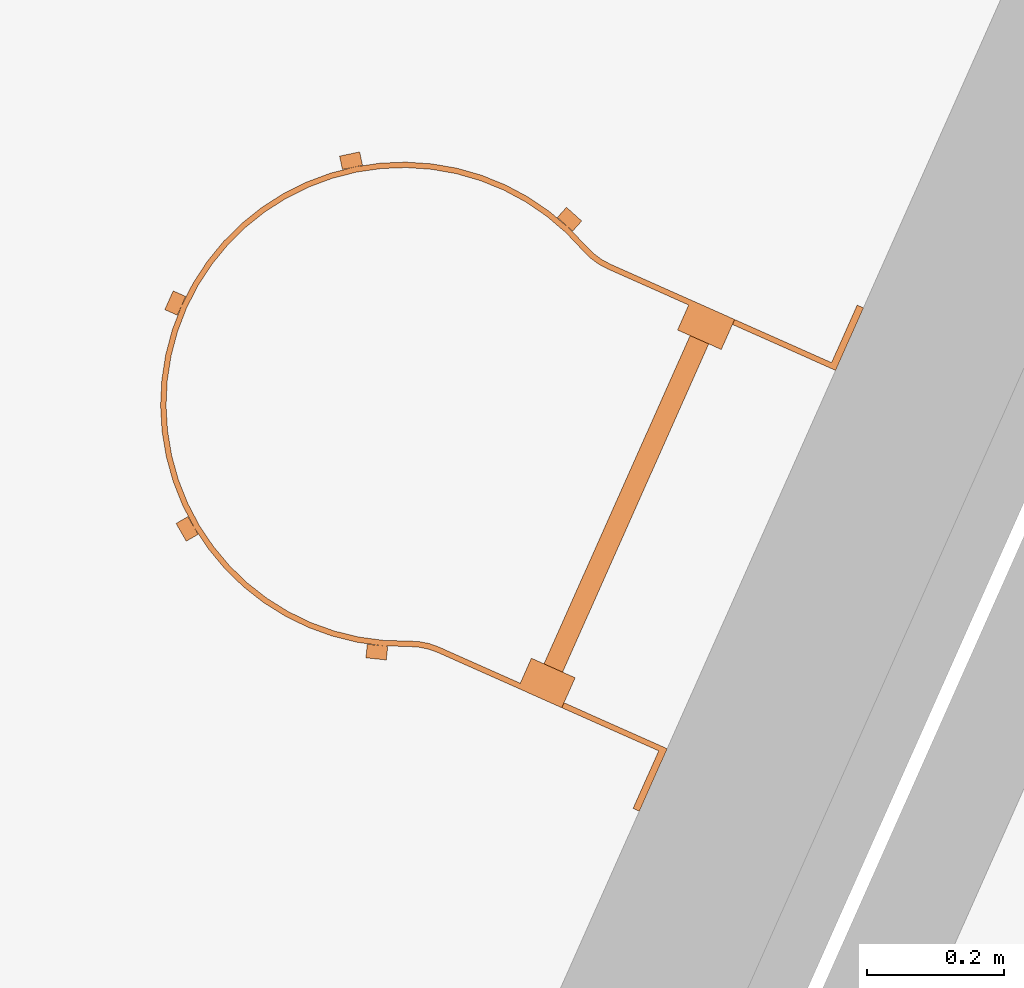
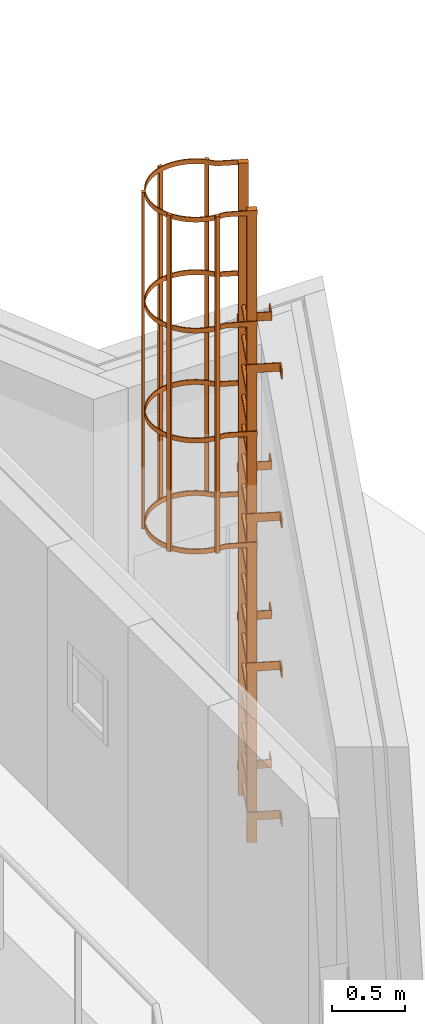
# One storey, part 15 of 16: 1 proxy.
"""IFC2X3 building model written with IfcOpenShell, lengths in millimetres."""

from ifc_helpers import new_model, entity, si_unit, converted_unit, derived_unit, direction, frame, frame_2d, origin, origin_2d_with_axis, place, context, subcontext, project, spatial, polyline, circle_curve, parameter, trimmed, segment, composite_curve, rectangle, circle, outline, extrude, source, transform, mapped, material, material_list, type_object, type_shapes, element, save


model = new_model("IFC2X3")

# Units and contexts
model_context = context("Model", 3, precision=0.01, world=origin(), true_north=direction((6.123031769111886e-17, 1.0)))
body_context = subcontext(model_context, "Body", "Model", "MODEL_VIEW")
ifc_project = project(units=[si_unit("LENGTHUNIT", "METRE", prefix="MILLI"), si_unit("AREAUNIT", "SQUARE_METRE"), si_unit("VOLUMEUNIT", "CUBIC_METRE"), converted_unit("PLANEANGLEUNIT", "DEGREE", entity("IfcRatioMeasure", 0.017453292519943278), si_unit("PLANEANGLEUNIT", "RADIAN"), dimensions=[0, 0, 0, 0, 0, 0, 0]), si_unit("MASSUNIT", "GRAM", prefix="KILO"), derived_unit("MASSDENSITYUNIT", [(si_unit("MASSUNIT", "GRAM", prefix="KILO"), 1), (si_unit("LENGTHUNIT", "METRE"), -3)]), derived_unit("MOMENTOFINERTIAUNIT", [(si_unit("LENGTHUNIT", "METRE"), 4)]), si_unit("TIMEUNIT", "SECOND"), si_unit("FREQUENCYUNIT", "HERTZ"), si_unit("THERMODYNAMICTEMPERATUREUNIT", "DEGREE_CELSIUS"), derived_unit("THERMALTRANSMITTANCEUNIT", [(si_unit("MASSUNIT", "GRAM", prefix="KILO"), 1), (si_unit("THERMODYNAMICTEMPERATUREUNIT", "KELVIN"), -1), (si_unit("TIMEUNIT", "SECOND"), -3)]), derived_unit("VOLUMETRICFLOWRATEUNIT", [(si_unit("LENGTHUNIT", "METRE"), 3), (si_unit("TIMEUNIT", "SECOND"), -1)]), derived_unit("MASSFLOWRATEUNIT", [(si_unit("MASSUNIT", "GRAM", prefix="KILO"), 1), (si_unit("TIMEUNIT", "SECOND"), -1)]), derived_unit("ROTATIONALFREQUENCYUNIT", [(si_unit("TIMEUNIT", "SECOND"), -1)]), si_unit("ELECTRICCURRENTUNIT", "AMPERE"), si_unit("ELECTRICVOLTAGEUNIT", "VOLT"), si_unit("POWERUNIT", "WATT"), si_unit("FORCEUNIT", "NEWTON", prefix="KILO"), si_unit("ILLUMINANCEUNIT", "LUX"), si_unit("LUMINOUSFLUXUNIT", "LUMEN"), si_unit("LUMINOUSINTENSITYUNIT", "CANDELA"), derived_unit("USERDEFINED", [(si_unit("MASSUNIT", "GRAM", prefix="KILO"), -1), (si_unit("LENGTHUNIT", "METRE"), -2), (si_unit("TIMEUNIT", "SECOND"), 3), (si_unit("LUMINOUSFLUXUNIT", "LUMEN"), 1)]), derived_unit("SOUNDPOWERUNIT", [(si_unit("MASSUNIT", "GRAM", prefix="KILO"), 1), (si_unit("LENGTHUNIT", "METRE"), 2), (si_unit("TIMEUNIT", "SECOND"), -3)]), derived_unit("SOUNDPRESSUREUNIT", [(si_unit("MASSUNIT", "GRAM", prefix="KILO"), 1), (si_unit("LENGTHUNIT", "METRE"), -1), (si_unit("TIMEUNIT", "SECOND"), -2)]), derived_unit("LINEARVELOCITYUNIT", [(si_unit("LENGTHUNIT", "METRE"), 1), (si_unit("TIMEUNIT", "SECOND"), -1)]), si_unit("PRESSUREUNIT", "PASCAL"), derived_unit("USERDEFINED", [(si_unit("LENGTHUNIT", "METRE"), -2), (si_unit("MASSUNIT", "GRAM", prefix="KILO"), 1), (si_unit("TIMEUNIT", "SECOND"), -2)]), derived_unit("LINEARFORCEUNIT", [(si_unit("MASSUNIT", "GRAM", prefix="KILO"), 1), (si_unit("LENGTHUNIT", "METRE"), 1), (si_unit("TIMEUNIT", "SECOND"), -2), (si_unit("LENGTHUNIT", "METRE"), -1)]), derived_unit("PLANARFORCEUNIT", [(si_unit("MASSUNIT", "GRAM", prefix="KILO"), 1), (si_unit("LENGTHUNIT", "METRE"), 1), (si_unit("TIMEUNIT", "SECOND"), -2), (si_unit("LENGTHUNIT", "METRE"), -2)])], contexts=[model_context])

# Site, building, storey
site_placement = place(None, frame((-10000.0, -10000.0, 0.0)))
site = spatial("IfcSite", under=ifc_project, at=site_placement, Name="Default", CompositionType="ELEMENT")
building_placement = place(site_placement, origin())
building = spatial("IfcBuilding", under=site, at=building_placement, CompositionType="ELEMENT")
storey_placement = place(building_placement, frame((0.0, 0.0, 9000.0)))
storey = spatial("IfcBuildingStorey", under=building, at=storey_placement, Name="02 2e verdieping", CompositionType="ELEMENT", Elevation=9000.0)

# Proxy
ifc_material = material(Name="bcb_aluminium")
ifc_material_list_1 = material_list([ifc_material, ifc_material, ifc_material, ifc_material, ifc_material, ifc_material, ifc_material, ifc_material, ifc_material, ifc_material, ifc_material, ifc_material, ifc_material, ifc_material, ifc_material, ifc_material, ifc_material, ifc_material, ifc_material, ifc_material, ifc_material, ifc_material, ifc_material, ifc_material, ifc_material, ifc_material, ifc_material, ifc_material, ifc_material, ifc_material, ifc_material, ifc_material, ifc_material, ifc_material, ifc_material, ifc_material, ifc_material, ifc_material, ifc_material, ifc_material, ifc_material, ifc_material, ifc_material])
ifc_material_list_2 = material_list([ifc_material, ifc_material, ifc_material, ifc_material, ifc_material, ifc_material, ifc_material, ifc_material, ifc_material, ifc_material, ifc_material, ifc_material, ifc_material, ifc_material, ifc_material, ifc_material, ifc_material, ifc_material, ifc_material, ifc_material, ifc_material, ifc_material, ifc_material, ifc_material, ifc_material, ifc_material, ifc_material, ifc_material, ifc_material, ifc_material, ifc_material, ifc_material, ifc_material, ifc_material, ifc_material, ifc_material, ifc_material, ifc_material, ifc_material, ifc_material, ifc_material, ifc_material, ifc_material])
building_element_proxy_type = type_object("IfcBuildingElementProxyType", Name="Storax-kooiladder-DLL-VM-K:GL-VM-K", PredefinedType="NOTDEFINED", material=ifc_material_list_2)
shared_shape = source(origin(), body_context, "Body", "SweptSolid", [
    extrude(circle(Radius=15.000000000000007, at=frame_2d((1.0926188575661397e-28, -3.383959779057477e-14), x_axis=(1.0, 0.0))), frame((-277.4999999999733, 4120.000477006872, 200.0), z_axis=(1.0, 0.0, 0.0), x_axis=(0.0, 1.0, 0.0)), (0.0, 0.0, 1.0), 555.0000000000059),
    extrude(circle(Radius=15.000000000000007, at=frame_2d((1.0926188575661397e-28, -3.383959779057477e-14), x_axis=(1.0, 0.0))), frame((-277.4999999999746, 3870.0004770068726, 200.0), z_axis=(1.0, 0.0, 0.0), x_axis=(0.0, 1.0, 0.0)), (0.0, 0.0, 1.0), 555.0000000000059),
    extrude(circle(Radius=15.000000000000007, at=frame_2d((1.0926188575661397e-28, -3.383959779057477e-14), x_axis=(1.0, 0.0))), frame((-277.4999999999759, 3620.000477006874, 200.0), z_axis=(1.0, 0.0, 0.0), x_axis=(0.0, 1.0, 0.0)), (0.0, 0.0, 1.0), 555.0000000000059),
    extrude(circle(Radius=15.000000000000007, at=frame_2d((1.0926188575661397e-28, -3.383959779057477e-14), x_axis=(1.0, 0.0))), frame((-277.4999999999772, 3370.0004770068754, 200.0), z_axis=(1.0, 0.0, 0.0), x_axis=(0.0, 1.0, 0.0)), (0.0, 0.0, 1.0), 555.0000000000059),
    extrude(circle(Radius=15.000000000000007, at=frame_2d((1.0926188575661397e-28, -3.383959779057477e-14), x_axis=(1.0, 0.0))), frame((-277.4999999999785, 3120.0004770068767, 200.0), z_axis=(1.0, 0.0, 0.0), x_axis=(0.0, 1.0, 0.0)), (0.0, 0.0, 1.0), 555.0000000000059),
    extrude(circle(Radius=15.000000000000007, at=frame_2d((1.0926188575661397e-28, -3.383959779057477e-14), x_axis=(1.0, 0.0))), frame((-277.4999999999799, 2870.000477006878, 200.0), z_axis=(1.0, 0.0, 0.0), x_axis=(0.0, 1.0, 0.0)), (0.0, 0.0, 1.0), 555.0000000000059),
    extrude(circle(Radius=15.000000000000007, at=frame_2d((1.0926188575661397e-28, -3.383959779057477e-14), x_axis=(1.0, 0.0))), frame((-277.4999999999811, 2620.000477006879, 200.0), z_axis=(1.0, 0.0, 0.0), x_axis=(0.0, 1.0, 0.0)), (0.0, 0.0, 1.0), 555.0000000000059),
    extrude(circle(Radius=15.000000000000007, at=frame_2d((1.0926188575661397e-28, -3.383959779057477e-14), x_axis=(1.0, 0.0))), frame((-277.4999999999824, 2370.00047700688, 200.0), z_axis=(1.0, 0.0, 0.0), x_axis=(0.0, 1.0, 0.0)), (0.0, 0.0, 1.0), 555.0000000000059),
    extrude(circle(Radius=15.000000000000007, at=frame_2d((1.0926188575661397e-28, -3.383959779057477e-14), x_axis=(1.0, 0.0))), frame((-277.4999999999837, 2120.0004770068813, 200.0), z_axis=(1.0, 0.0, 0.0), x_axis=(0.0, 1.0, 0.0)), (0.0, 0.0, 1.0), 555.0000000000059),
    extrude(circle(Radius=15.000000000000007, at=frame_2d((1.0926188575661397e-28, -3.383959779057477e-14), x_axis=(1.0, 0.0))), frame((-277.499999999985, 1870.0004770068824, 200.0), z_axis=(1.0, 0.0, 0.0), x_axis=(0.0, 1.0, 0.0)), (0.0, 0.0, 1.0), 555.0000000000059),
    extrude(circle(Radius=15.000000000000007, at=frame_2d((1.0926188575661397e-28, -3.383959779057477e-14), x_axis=(1.0, 0.0))), frame((-277.4999999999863, 1620.0004770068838, 200.0), z_axis=(1.0, 0.0, 0.0), x_axis=(0.0, 1.0, 0.0)), (0.0, 0.0, 1.0), 555.0000000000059),
    extrude(circle(Radius=15.000000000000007, at=frame_2d((1.0926188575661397e-28, -3.383959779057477e-14), x_axis=(1.0, 0.0))), frame((-277.4999999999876, 1370.000477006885, 200.0), z_axis=(1.0, 0.0, 0.0), x_axis=(0.0, 1.0, 0.0)), (0.0, 0.0, 1.0), 555.0000000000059),
    extrude(circle(Radius=15.000000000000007, at=frame_2d((1.0926188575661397e-28, -3.383959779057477e-14), x_axis=(1.0, 0.0))), frame((-277.4999999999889, 1120.0004770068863, 200.0), z_axis=(1.0, 0.0, 0.0), x_axis=(0.0, 1.0, 0.0)), (0.0, 0.0, 1.0), 555.0000000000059),
    extrude(circle(Radius=15.000000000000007, at=frame_2d((1.0926188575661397e-28, -3.383959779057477e-14), x_axis=(1.0, 0.0))), frame((-277.4999999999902, 870.0004770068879, 200.0), z_axis=(1.0, 0.0, 0.0), x_axis=(0.0, 1.0, 0.0)), (0.0, 0.0, 1.0), 555.0000000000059),
    extrude(circle(Radius=15.000000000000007, at=frame_2d((1.0926188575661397e-28, -3.383959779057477e-14), x_axis=(1.0, 0.0))), frame((-277.4999999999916, 620.000477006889, 200.0), z_axis=(1.0, 0.0, 0.0), x_axis=(0.0, 1.0, 0.0)), (0.0, 0.0, 1.0), 555.0000000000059),
    extrude(circle(Radius=15.000000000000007, at=frame_2d((1.0926188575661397e-28, -3.383959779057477e-14), x_axis=(1.0, 0.0))), frame((-277.4999999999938, 370.0004770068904, 200.0), z_axis=(1.0, 0.0, 0.0), x_axis=(0.0, 1.0, 0.0)), (0.0, 0.0, 1.0), 555.0000000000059),
    extrude(circle(Radius=15.000000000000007, at=frame_2d((1.0926188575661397e-28, -3.383959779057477e-14), x_axis=(1.0, 0.0))), frame((-277.49999999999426, 120.00047700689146, 200.0), z_axis=(1.0, 0.0, 0.0), x_axis=(0.0, 1.0, 0.0)), (0.0, 0.0, 1.0), 555.0000000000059),
    extrude(rectangle(XDim=39.99999999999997, YDim=5299.999522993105, at=frame_2d((1.7763568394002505e-14, -6.821210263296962e-13), x_axis=(1.0, 0.0))), frame((-282.4999999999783, 2670.0002385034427, 165.0), z_axis=(0.0, 0.0, 1.0), x_axis=(-1.0, 0.0, 0.0)), (0.0, 0.0, 1.0), 70.00000000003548),
    extrude(rectangle(XDim=39.99999999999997, YDim=5299.99952299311, at=frame_2d((1.7763568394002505e-14, 4.547473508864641e-13), x_axis=(1.0, 0.0))), frame((282.5000000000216, 2670.0002385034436, 165.0), z_axis=(0.0, 0.0, 1.0), x_axis=(-1.0, 0.0, 0.0)), (0.0, 0.0, 1.0), 70.00000000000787),
    extrude(rectangle(XDim=29.999999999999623, YDim=20.000000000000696, at=frame_2d((1.509903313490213e-13, -1.900701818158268e-13), x_axis=(1.0, 0.0))), frame((346.18457193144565, 2500.0, 445.01781404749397), z_axis=(0.0, 1.0, 0.0), x_axis=(-0.30901699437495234, 0.0, -0.951056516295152)), (0.0, 0.0, 1.0), 2819.999999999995),
    extrude(rectangle(XDim=30.000000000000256, YDim=20.00000000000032, at=frame_2d((-3.108624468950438e-14, -1.8918200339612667e-13), x_axis=(1.0, 0.0))), frame((294.4821859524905, 2500.0, 771.4538318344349), z_axis=(0.0, 1.0, 0.0), x_axis=(0.5877852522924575, 0.0, -0.8090169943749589)), (0.0, 0.0, 1.0), 2820.0),
    extrude(rectangle(XDim=2820.0, YDim=29.999999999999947, at=origin_2d_with_axis()), frame((0.0, 3910.0, 911.4999999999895), z_axis=(0.0, 0.0, 1.0), x_axis=(0.0, 1.0, 0.0)), (0.0, 0.0, 1.0), 20.000000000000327),
    extrude(rectangle(XDim=30.00000000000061, YDim=20.000000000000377, at=frame_2d((-5.417888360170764e-14, -1.2878587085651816e-13), x_axis=(0.0, 1.0))), frame((-294.4821859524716, 2500.0, 771.4538318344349), z_axis=(0.0, 1.0, 0.0), x_axis=(0.8090169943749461, 0.0, -0.5877852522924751)), (0.0, 0.0, 1.0), 2819.999999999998),
    extrude(rectangle(XDim=29.999999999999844, YDim=20.000000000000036, at=frame_2d((-2.1316282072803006e-14, 6.394884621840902e-14), x_axis=(0.0, 1.0))), frame((-346.1845719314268, 2500.0, 445.01781404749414), z_axis=(0.0, 1.0, 0.0), x_axis=(0.951056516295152, 0.0, 0.30901699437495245)), (0.0, 0.0, 1.0), 2819.9999999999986),
    extrude(outline(composite_curve([segment(polyline([(-310.49999999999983, 51.29333201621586), (-310.49999999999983, -147.28464757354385)]), True, "CONTINUOUS"), segment(polyline([(-310.49999999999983, -147.28464757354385), (-302.4999999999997, -147.28464757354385)]), True, "CONTINUOUS"), segment(polyline([(-302.4999999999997, -147.28464757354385), (-302.4999999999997, 53.096248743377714)]), True, "CONTINUOUS"), segment(trimmed(circle_curve(frame_2d((-402.4999999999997, 53.09624874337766), x_axis=(1.0, 0.0)), 100.0), [parameter(359.9999999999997)], [parameter(25.51582177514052)], True, "PARAMETER"), True, "CONTINUOUS"), segment(trimmed(circle_curve(frame_2d((0.0, 245.21535242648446), x_axis=(1.0, 0.0)), 345.99999999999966), [parameter(334.4841782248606)], [parameter(205.5158217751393)], True, "PARAMETER"), False, "CONTINUOUS"), segment(trimmed(circle_curve(frame_2d((402.5000000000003, 53.09624874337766), x_axis=(1.0, 0.0)), 100.0), [parameter(154.48417822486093)], [parameter(180.0000000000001)], True, "PARAMETER"), True, "CONTINUOUS"), segment(polyline([(302.5000000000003, 53.09624874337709), (302.5000000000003, -147.28464757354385)]), True, "CONTINUOUS"), segment(polyline([(302.5000000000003, -147.28464757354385), (310.4999999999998, -147.28464757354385)]), True, "CONTINUOUS"), segment(polyline([(310.4999999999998, -147.28464757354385), (310.4999999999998, 51.29333201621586)]), True, "CONTINUOUS"), segment(trimmed(circle_curve(frame_2d((410.49999999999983, 51.293332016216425), x_axis=(1.0, 0.0)), 100.0), [parameter(154.7137419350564)], [parameter(180.00000000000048)], True, "PARAMETER"), False, "CONTINUOUS"), segment(trimmed(circle_curve(frame_2d((0.0, 245.21535242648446), x_axis=(1.0, 0.0)), 353.9999999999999), [parameter(334.7137419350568)], [parameter(205.28625806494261)], True, "PARAMETER"), True, "CONTINUOUS"), segment(trimmed(circle_curve(frame_2d((-410.49999999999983, 51.293332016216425), x_axis=(1.0, 0.0)), 100.0), [parameter(5.088887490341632e-14)], [parameter(25.286258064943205)], True, "PARAMETER"), False, "CONTINUOUS")], self_intersect=False)), frame((0.0, 4350.0, 312.2846475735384), z_axis=(0.0, -1.0, 0.0), x_axis=(1.0, 0.0, 0.0)), (0.0, 0.0, -1.0), 40.000000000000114),
    extrude(outline(composite_curve([segment(polyline([(-310.49999999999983, 51.29333201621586), (-310.49999999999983, -147.28464757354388)]), True, "CONTINUOUS"), segment(polyline([(-310.49999999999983, -147.28464757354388), (-302.4999999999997, -147.28464757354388)]), True, "CONTINUOUS"), segment(polyline([(-302.4999999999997, -147.28464757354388), (-302.4999999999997, 53.096248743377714)]), True, "CONTINUOUS"), segment(trimmed(circle_curve(frame_2d((-402.4999999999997, 53.0962487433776), x_axis=(1.0, 0.0)), 100.0), [parameter(359.9999999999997)], [parameter(25.51582177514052)], True, "PARAMETER"), True, "CONTINUOUS"), segment(trimmed(circle_curve(frame_2d((0.0, 245.21535242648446), x_axis=(1.0, 0.0)), 345.99999999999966), [parameter(334.4841782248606)], [parameter(205.5158217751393)], True, "PARAMETER"), False, "CONTINUOUS"), segment(trimmed(circle_curve(frame_2d((402.5000000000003, 53.0962487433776), x_axis=(1.0, 0.0)), 100.0), [parameter(154.48417822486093)], [parameter(180.0000000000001)], True, "PARAMETER"), True, "CONTINUOUS"), segment(polyline([(302.5000000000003, 53.09624874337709), (302.5000000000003, -147.28464757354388)]), True, "CONTINUOUS"), segment(polyline([(302.5000000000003, -147.28464757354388), (310.4999999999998, -147.28464757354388)]), True, "CONTINUOUS"), segment(polyline([(310.4999999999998, -147.28464757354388), (310.4999999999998, 51.29333201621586)]), True, "CONTINUOUS"), segment(trimmed(circle_curve(frame_2d((410.49999999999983, 51.29333201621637), x_axis=(1.0, 0.0)), 100.0), [parameter(154.7137419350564)], [parameter(180.00000000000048)], True, "PARAMETER"), False, "CONTINUOUS"), segment(trimmed(circle_curve(frame_2d((0.0, 245.21535242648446), x_axis=(1.0, 0.0)), 353.9999999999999), [parameter(334.7137419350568)], [parameter(205.28625806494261)], True, "PARAMETER"), True, "CONTINUOUS"), segment(trimmed(circle_curve(frame_2d((-410.49999999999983, 51.29333201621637), x_axis=(1.0, 0.0)), 100.0), [parameter(5.088887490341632e-14)], [parameter(25.286258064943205)], True, "PARAMETER"), False, "CONTINUOUS")], self_intersect=False)), frame((0.0, 5280.0, 312.2846475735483), z_axis=(0.0, -1.0, 0.0), x_axis=(1.0, 0.0, 0.0)), (0.0, 0.0, -1.0), 39.99999999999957),
    extrude(outline(composite_curve([segment(polyline([(-310.4999999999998, 51.29333201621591), (-310.4999999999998, -147.28464757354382)]), True, "CONTINUOUS"), segment(polyline([(-310.4999999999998, -147.28464757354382), (-302.4999999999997, -147.28464757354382)]), True, "CONTINUOUS"), segment(polyline([(-302.4999999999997, -147.28464757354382), (-302.4999999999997, 53.096248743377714)]), True, "CONTINUOUS"), segment(trimmed(circle_curve(frame_2d((-402.4999999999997, 53.09624874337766), x_axis=(1.0, 0.0)), 100.0), [parameter(359.9999999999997)], [parameter(25.51582177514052)], True, "PARAMETER"), True, "CONTINUOUS"), segment(trimmed(circle_curve(frame_2d((0.0, 245.21535242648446), x_axis=(1.0, 0.0)), 345.99999999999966), [parameter(334.4841782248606)], [parameter(205.5158217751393)], True, "PARAMETER"), False, "CONTINUOUS"), segment(trimmed(circle_curve(frame_2d((402.5000000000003, 53.09624874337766), x_axis=(1.0, 0.0)), 100.0), [parameter(154.48417822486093)], [parameter(180.0000000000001)], True, "PARAMETER"), True, "CONTINUOUS"), segment(polyline([(302.5000000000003, 53.096248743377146), (302.5000000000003, -147.28464757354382)]), True, "CONTINUOUS"), segment(polyline([(302.5000000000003, -147.28464757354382), (310.49999999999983, -147.28464757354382)]), True, "CONTINUOUS"), segment(polyline([(310.49999999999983, -147.28464757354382), (310.49999999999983, 51.29333201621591)]), True, "CONTINUOUS"), segment(trimmed(circle_curve(frame_2d((410.49999999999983, 51.293332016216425), x_axis=(1.0, 0.0)), 100.0), [parameter(154.7137419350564)], [parameter(180.00000000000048)], True, "PARAMETER"), False, "CONTINUOUS"), segment(trimmed(circle_curve(frame_2d((0.0, 245.21535242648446), x_axis=(1.0, 0.0)), 353.9999999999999), [parameter(334.7137419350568)], [parameter(205.28625806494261)], True, "PARAMETER"), True, "CONTINUOUS"), segment(trimmed(circle_curve(frame_2d((-410.4999999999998, 51.293332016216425), x_axis=(1.0, 0.0)), 100.0), [parameter(5.088887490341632e-14)], [parameter(25.286258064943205)], True, "PARAMETER"), False, "CONTINUOUS")], self_intersect=False)), frame((0.0, 3430.0, 312.2846475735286), z_axis=(0.0, -1.0, 0.0), x_axis=(1.0, 0.0, 0.0)), (0.0, 0.0, -1.0), 39.9999999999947),
    extrude(outline(composite_curve([segment(polyline([(-310.4999999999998, 51.29333201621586), (-310.4999999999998, -147.28464757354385)]), True, "CONTINUOUS"), segment(polyline([(-310.4999999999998, -147.28464757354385), (-302.4999999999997, -147.28464757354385)]), True, "CONTINUOUS"), segment(polyline([(-302.4999999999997, -147.28464757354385), (-302.4999999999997, 53.09624874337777)]), True, "CONTINUOUS"), segment(trimmed(circle_curve(frame_2d((-402.4999999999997, 53.0962487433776), x_axis=(1.0, 0.0)), 100.0), [parameter(359.9999999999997)], [parameter(25.515821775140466)], True, "PARAMETER"), True, "CONTINUOUS"), segment(trimmed(circle_curve(frame_2d((0.0, 245.2153524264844), x_axis=(1.0, 0.0)), 345.99999999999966), [parameter(334.4841782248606)], [parameter(205.5158217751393)], True, "PARAMETER"), False, "CONTINUOUS"), segment(trimmed(circle_curve(frame_2d((402.5000000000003, 53.0962487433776), x_axis=(1.0, 0.0)), 100.0), [parameter(154.48417822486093)], [parameter(180.0000000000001)], True, "PARAMETER"), True, "CONTINUOUS"), segment(polyline([(302.5000000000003, 53.09624874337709), (302.5000000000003, -147.28464757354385)]), True, "CONTINUOUS"), segment(polyline([(302.5000000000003, -147.28464757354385), (310.49999999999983, -147.28464757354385)]), True, "CONTINUOUS"), segment(polyline([(310.49999999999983, -147.28464757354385), (310.49999999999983, 51.29333201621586)]), True, "CONTINUOUS"), segment(trimmed(circle_curve(frame_2d((410.49999999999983, 51.29333201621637), x_axis=(1.0, 0.0)), 100.0), [parameter(154.7137419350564)], [parameter(180.00000000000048)], True, "PARAMETER"), False, "CONTINUOUS"), segment(trimmed(circle_curve(frame_2d((0.0, 245.2153524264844), x_axis=(1.0, 0.0)), 353.9999999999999), [parameter(334.7137419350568)], [parameter(205.28625806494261)], True, "PARAMETER"), True, "CONTINUOUS"), segment(trimmed(circle_curve(frame_2d((-410.4999999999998, 51.29333201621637), x_axis=(1.0, 0.0)), 100.0), [parameter(5.088887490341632e-14)], [parameter(25.286258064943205)], True, "PARAMETER"), False, "CONTINUOUS")], self_intersect=False)), frame((0.0, 2500.0, 312.2846475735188), z_axis=(0.0, -1.0, 0.0), x_axis=(1.0, 0.0, 0.0)), (0.0, 0.0, -1.0), 39.99999999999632),
    extrude(rectangle(XDim=99.9999999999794, YDim=70.00000000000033, at=frame_2d((-1.7763568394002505e-14, 0.0), x_axis=(1.0, 0.0))), frame((-352.5000000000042, 245.0, 0.0)), (0.0, 0.0, 1.0), 10.000000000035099),
    extrude(rectangle(XDim=7.999999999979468, YDim=70.00000000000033, at=frame_2d((-1.687538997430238e-14, 0.0), x_axis=(1.0, 0.0))), frame((-306.5000000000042, 245.0, 0.0)), (0.0, 0.0, 1.0), 240.00000000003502),
    extrude(rectangle(XDim=99.9999999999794, YDim=70.00000000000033, at=frame_2d((-1.7763568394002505e-14, 0.0), x_axis=(1.0, 0.0))), frame((352.5000000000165, 245.0, 0.0), z_axis=(0.0, 0.0, 1.0), x_axis=(-1.0, 0.0, 0.0)), (0.0, 0.0, 1.0), 10.000000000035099),
    extrude(rectangle(XDim=7.999999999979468, YDim=70.00000000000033, at=frame_2d((-1.687538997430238e-14, 0.0), x_axis=(1.0, 0.0))), frame((306.50000000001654, 245.0, 0.0), z_axis=(0.0, 0.0, 1.0), x_axis=(-1.0, 0.0, 0.0)), (0.0, 0.0, 1.0), 240.00000000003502),
    extrude(rectangle(XDim=99.9999999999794, YDim=70.00000000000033, at=frame_2d((-1.7763568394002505e-14, 0.0), x_axis=(1.0, 0.0))), frame((-352.5000000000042, 1495.0, 0.0)), (0.0, 0.0, 1.0), 10.000000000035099),
    extrude(rectangle(XDim=7.999999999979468, YDim=70.00000000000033, at=frame_2d((-1.687538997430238e-14, 0.0), x_axis=(1.0, 0.0))), frame((-306.5000000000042, 1495.0, 0.0)), (0.0, 0.0, 1.0), 240.00000000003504),
    extrude(rectangle(XDim=99.9999999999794, YDim=70.00000000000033, at=frame_2d((-1.7763568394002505e-14, 0.0), x_axis=(1.0, 0.0))), frame((352.5000000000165, 1495.0, 0.0), z_axis=(0.0, 0.0, 1.0), x_axis=(-1.0, 0.0, 0.0)), (0.0, 0.0, 1.0), 10.000000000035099),
    extrude(rectangle(XDim=7.999999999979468, YDim=70.00000000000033, at=frame_2d((-1.687538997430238e-14, 0.0), x_axis=(1.0, 0.0))), frame((306.50000000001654, 1495.0, 0.0), z_axis=(0.0, 0.0, 1.0), x_axis=(-1.0, 0.0, 0.0)), (0.0, 0.0, 1.0), 240.00000000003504),
    extrude(rectangle(XDim=99.9999999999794, YDim=70.00000000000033, at=frame_2d((-1.7763568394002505e-14, 0.0), x_axis=(1.0, 0.0))), frame((-352.5000000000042, 2745.0, 0.0)), (0.0, 0.0, 1.0), 10.000000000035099),
    extrude(rectangle(XDim=7.999999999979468, YDim=70.00000000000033, at=frame_2d((-1.687538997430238e-14, 0.0), x_axis=(1.0, 0.0))), frame((-306.5000000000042, 2745.0, 0.0)), (0.0, 0.0, 1.0), 240.00000000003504),
    extrude(rectangle(XDim=99.9999999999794, YDim=70.00000000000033, at=frame_2d((-1.7763568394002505e-14, 0.0), x_axis=(1.0, 0.0))), frame((352.5000000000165, 2745.0, 0.0), z_axis=(0.0, 0.0, 1.0), x_axis=(-1.0, 0.0, 0.0)), (0.0, 0.0, 1.0), 10.000000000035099),
    extrude(rectangle(XDim=7.999999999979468, YDim=70.00000000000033, at=frame_2d((-1.687538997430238e-14, 0.0), x_axis=(1.0, 0.0))), frame((306.50000000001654, 2745.0, 0.0), z_axis=(0.0, 0.0, 1.0), x_axis=(-1.0, 0.0, 0.0)), (0.0, 0.0, 1.0), 240.00000000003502),
    extrude(rectangle(XDim=99.9999999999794, YDim=70.00000000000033, at=frame_2d((-1.7763568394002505e-14, 0.0), x_axis=(1.0, 0.0))), frame((-352.5000000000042, 3995.0, 0.0)), (0.0, 0.0, 1.0), 10.000000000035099),
    extrude(rectangle(XDim=7.999999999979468, YDim=70.00000000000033, at=frame_2d((-1.687538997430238e-14, 0.0), x_axis=(1.0, 0.0))), frame((-306.5000000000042, 3995.0, 0.0)), (0.0, 0.0, 1.0), 240.00000000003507),
    extrude(outline(polyline([(-156.6666666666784, -28.0), (-156.6666666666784, -36.0), (83.33333333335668, -36.0), (83.3333333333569, 64.0), (73.33333333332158, 64.0), (73.33333333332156, -28.0), (-156.6666666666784, -28.0)])), frame((338.5000000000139, 3960.0, 83.33333333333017), z_axis=(0.0, -1.0, 0.0), x_axis=(0.0, 0.0, -1.0)), (0.0, 0.0, -1.0), 70.00000000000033),
])
type_shapes(building_element_proxy_type, [shared_shape])
proxy_placement = place(storey_placement, frame((45489.99787702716, 39172.763264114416, 310.0), z_axis=(-0.9135454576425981, 0.40673664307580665, 0.0), x_axis=(-0.40673664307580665, -0.9135454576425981, 0.0)))
element("IfcBuildingElementProxy", 1, at=proxy_placement, inside=storey, type_object=building_element_proxy_type, material=ifc_material_list_1, Name="Storax-kooiladder-DLL-VM-K:GL-VM-K", ObjectType="Storax-kooiladder-DLL-VM-K:GL-VM-K", context=body_context, shape_type="MappedRepresentation", body=[
    mapped(shared_shape, transform((0.0, 0.0, 0.0), scale=1.0)),
])

save(model, "model.ifc")
